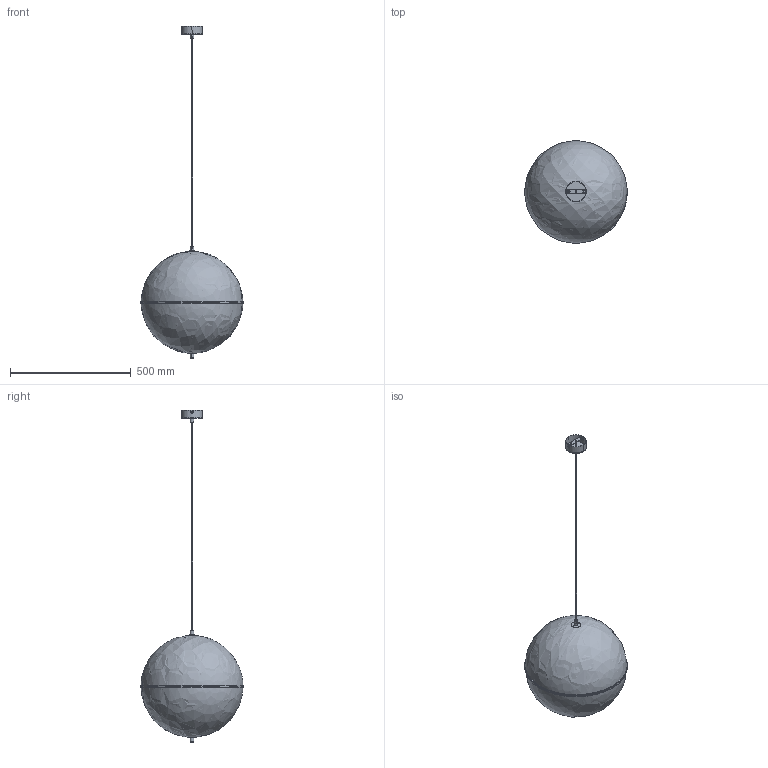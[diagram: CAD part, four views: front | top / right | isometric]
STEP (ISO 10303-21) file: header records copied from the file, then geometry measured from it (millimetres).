
FILE_DESCRIPTION(/* description */ (''),/* implementation_level */ '2;1');
FILE_NAME(/* name */ '29917_3d',/* time_stamp */ '2026-04-17T12:39:10+02:00',/* author */ (''),/* organization */ (''),/* preprocessor_version */ 'ST-DEVELOPER v19.2',/* originating_system */ 'Rhino 8.23',/* authorisation */ '');
FILE_SCHEMA (('CONFIG_CONTROL_DESIGN'));
Length unit declared in the file: millimetre
Products named in the file (2): Document; DOME M 29917
Bounding box: 424.4 x 424.4 x 1372.7 mm (x, y, z)
Surface area: 4607898.7 mm2
Topology: 30 solids, 43 shells, 528 faces, 1264 edges, 758 vertices
Faces by surface type: bspline 220, cylinder 172, plane 136
Entity records: 24224 total; most frequent: CARTESIAN_POINT 13151, ORIENTED_EDGE 2340, DIRECTION 1642, EDGE_CURVE 1228, AXIS2_PLACEMENT_3D 975, VERTEX_POINT 758, CIRCLE 662, TRIMMED_CURVE 656
